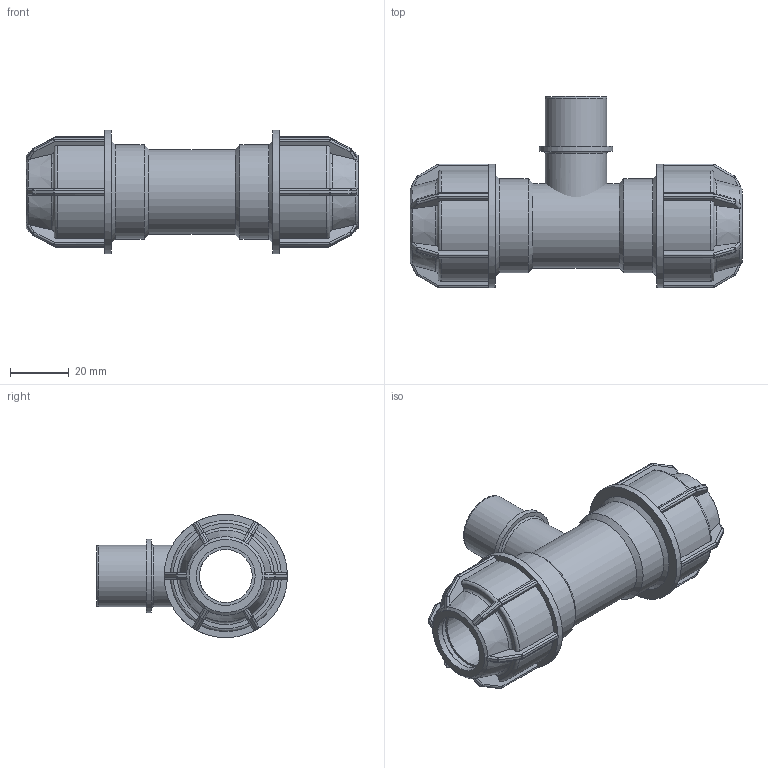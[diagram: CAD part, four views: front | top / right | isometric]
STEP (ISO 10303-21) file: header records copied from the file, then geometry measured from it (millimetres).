
FILE_DESCRIPTION(/* description */ ('PLASSON L.14 TEE MALE ADAPTOR (SILVER) 20-1/2"-20'),/* implementation_level */ '2;1');
FILE_NAME(/* name */ 'C:\Dropbox\KIMPROJECTS-Inventor\99-16-3568-Processing\Silver+MF ISRAEL\148400\148400020005.ipt.stp',/* time_stamp */ '2018-04-09T13:05:19+03:00',/* author */ ('KIM'),/* organization */ (''),/* preprocessor_version */ 'ST-DEVELOPER v15.6',/* originating_system */ 'Autodesk Inventor 2015',/* authorisation */ '');
FILE_SCHEMA (('AUTOMOTIVE_DESIGN { 1 0 10303 214 3 1 1 }'));
Length unit declared in the file: millimetre
Products named in the file (1): 148400020005
Bounding box: 113 x 65 x 42 mm (x, y, z)
Volume: 68969.3 mm3; surface area: 27874.4 mm2
Topology: 2 solids, 2 shells, 417 faces, 996 edges, 573 vertices
Faces by surface type: plane 197, cylinder 124, sphere 48, torus 30, cone 18
Full cylindrical faces by diameter (mm): 16 x2, 18 x1, 20 x4, 20.955 x2, 25.146 x1, 28.8 x1, 32 x2, 42 x2
Entity records: 12181 total; most frequent: CARTESIAN_POINT 3225, DIRECTION 1882, ORIENTED_EDGE 1834, EDGE_CURVE 917, AXIS2_PLACEMENT_3D 760, VERTEX_POINT 543, EDGE_LOOP 454, FACE_OUTER_BOUND 413
